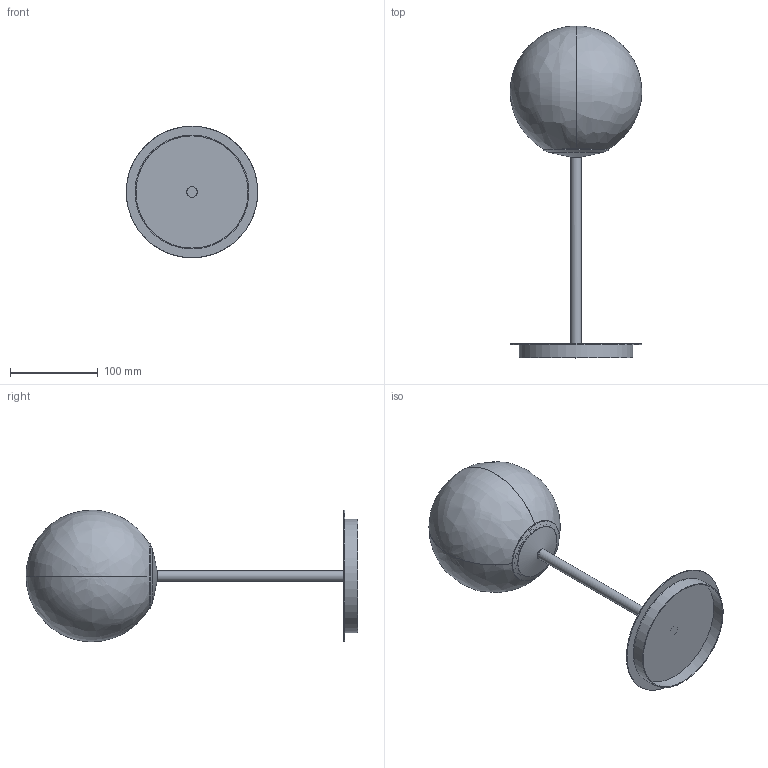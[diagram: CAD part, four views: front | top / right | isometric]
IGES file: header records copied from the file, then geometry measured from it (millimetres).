
Global section: file name: PARMA-S3946080-3D; native system: AutoCAD 2022 - Español (Spanish),; preprocessor: Autodesk Translation Framework DWG producer (atf_dwg_producer); organization: unknown; date: 20221221.103018; units: millimetre
Bounding box: 150 x 378.62 x 150 mm (x, y, z)
Volume: 1654033.7 mm3; surface area: 249380.2 mm2
Topology: 11 solids, 11 shells, 159 faces, 356 edges, 214 vertices
Faces by surface type: bspline 159
